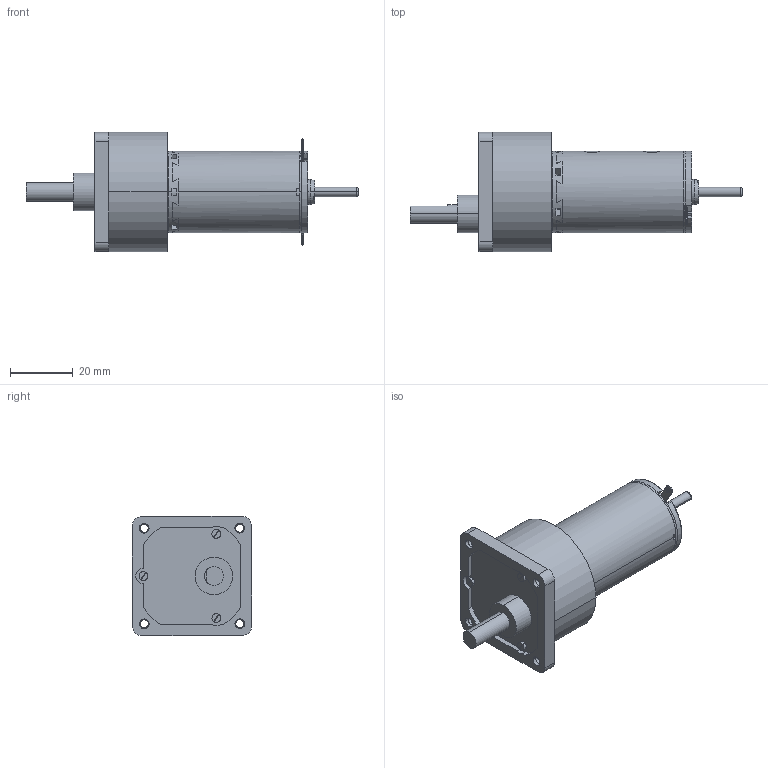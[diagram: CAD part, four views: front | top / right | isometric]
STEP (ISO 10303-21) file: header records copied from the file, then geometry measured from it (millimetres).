
FILE_DESCRIPTION (( 'STEP AP214' ), '1' );
FILE_NAME ('AMAX26CLLHP+GS38A 3étages.STEP', '2015-02-16T09:34:12', ( '' ), ( '' ), 'SwSTEP 2.0', 'SolidWorks 2014', '' );
FILE_SCHEMA (( 'AUTOMOTIVE_DESIGN' ));
Length unit declared in the file: millimetre
Products named in the file (4): Plaque d''appui GS38A; GS38A_GS38A 18:1 3 ‚tages; AMAX-26CLL; AMAX26CLLHP+GS38A 3étages
Assembly tree (3 placements, depth 2):
  AMAX26CLLHP+GS38A 3étages
    AMAX-26CLL
    GS38A_GS38A 18:1 3 ‚tages
    Plaque d''appui GS38A
Bounding box: 105.9 x 38.03 x 38.03 mm (x, y, z)
Volume: 49682.2 mm3; surface area: 14738.8 mm2
Topology: 4 solids, 4 shells, 559 faces, 1506 edges, 985 vertices
Faces by surface type: plane 294, cylinder 196, cone 62, torus 7
Entity records: 19434 total; most frequent: CARTESIAN_POINT 4252, ORIENTED_EDGE 3012, DIRECTION 2909, EDGE_CURVE 1506, AXIS2_PLACEMENT_3D 1060, VERTEX_POINT 985, LINE 789, VECTOR 789
